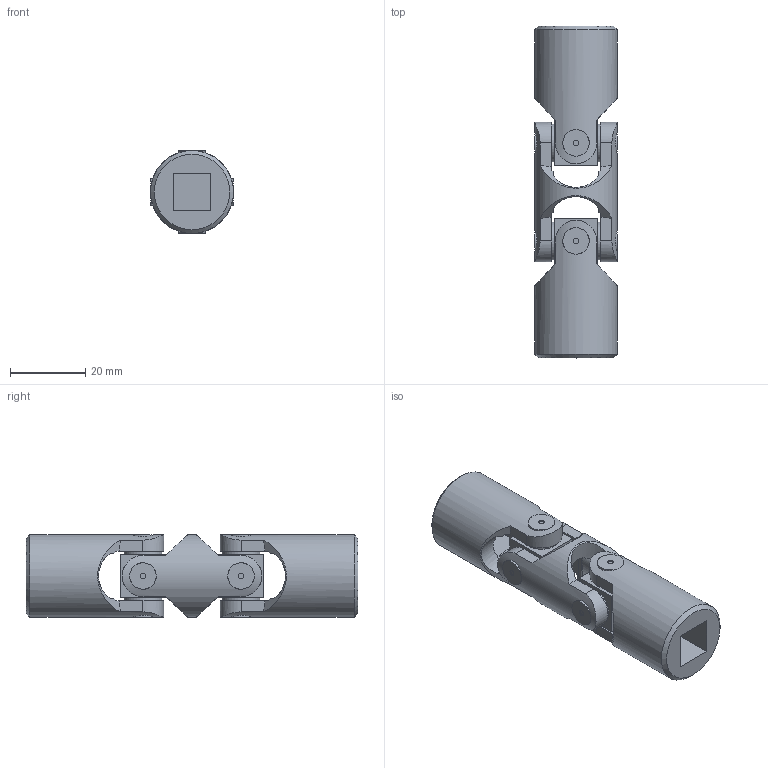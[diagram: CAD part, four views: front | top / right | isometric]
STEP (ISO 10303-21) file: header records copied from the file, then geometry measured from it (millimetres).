
FILE_DESCRIPTION(/* description */ (''),/* implementation_level */ '2;1');
FILE_NAME(/* name */ '\\SRV2016\Societa\Stefano\Disegni 3D\00Catalogo 3D\02Doppi GD-GBD\SGBD102Q.stp',/* time_stamp */ '2021-11-22T17:06:45+01:00',/* author */ ('acquisti'),/* organization */ (''),/* preprocessor_version */ 'ST-DEVELOPER v15.6',/* originating_system */ 'Autodesk Inventor 2015',/* authorisation */ '');
FILE_SCHEMA (('AUTOMOTIVE_DESIGN { 1 0 10303 214 3 1 1 }'));
Length unit declared in the file: millimetre
Products named in the file (4): 03G MOD; 03G SFE; 04GB MOQ; Ø22_04GBD-00_SGBD1200
Assembly tree (5 placements, depth 2):
  Ø22_04GBD-00_SGBD1200
    03G MOD
    03G SFE  x2
    04GB MOQ  x2
Bounding box: 22 x 88 x 22 mm (x, y, z)
Volume: 21889.8 mm3; surface area: 11721.6 mm2
Topology: 5 solids, 5 shells, 160 faces, 382 edges, 252 vertices
Faces by surface type: plane 78, cylinder 52, cone 26, torus 4
Full cylindrical faces by diameter (mm): 1.5 x8, 10 x8, 11.5 x1, 22 x3
Entity records: 3660 total; most frequent: CARTESIAN_POINT 1302, ORIENTED_EDGE 470, DIRECTION 450, EDGE_CURVE 235, AXIS2_PLACEMENT_3D 193, VERTEX_POINT 165, EDGE_LOOP 140, FACE_OUTER_BOUND 106
